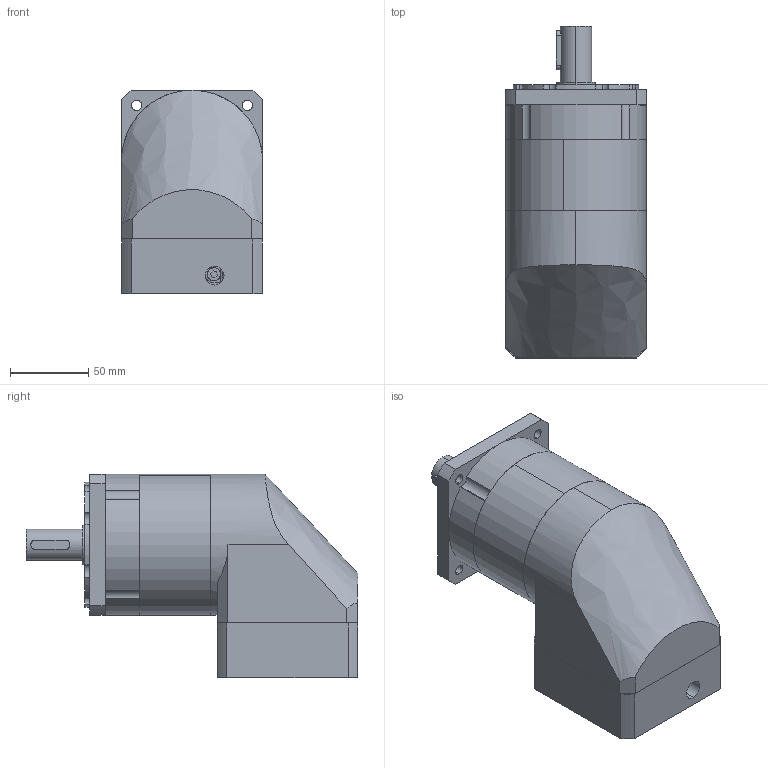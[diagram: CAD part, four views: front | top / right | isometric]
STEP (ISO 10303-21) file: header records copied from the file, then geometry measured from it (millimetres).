
FILE_DESCRIPTION (( 'STEP AP203' ), '1' );
FILE_NAME ('PVFA090-L2-14-73-98.4.STEP', '2022-07-27T03:33:24', ( 'Windows User' ), ( 'P R C' ), 'SwSTEP 2.0', 'SolidWorks 2016', '' );
FILE_SCHEMA (( 'CONFIG_CONTROL_DESIGN' ));
Length unit declared in the file: millimetre
Products named in the file (9): PVFA090 奻屳唳_梓袧; PVFA090-蟀諉啣-73-M5-98.4; PVFA090-薊粣ん-14; M5 x 20; 粣創-3206A 30x62x23.8_2; 邧埴瑩 6x6x25; PVFA090-L2-14-73-98.4; PVFA090 眊极_揤翉; PVFA090 內齿圈-优化_二级内齿圈
Assembly tree (8 placements, depth 2):
  PVFA090-L2-14-73-98.4
    PVFA090 眊极_揤翉
    PVFA090 內齿圈-优化_二级内齿圈
    PVFA090 奻屳唳_梓袧
    PVFA090-蟀諉啣-73-M5-98.4
    PVFA090-薊粣ん-14
    M5 x 20
    粣創-3206A 30x62x23.8_2
    邧埴瑩 6x6x25
Bounding box: 90 x 212 x 130 mm (x, y, z)
Volume: 1245754.9 mm3; surface area: 196168.7 mm2
Topology: 13 solids, 13 shells, 1189 faces, 3450 edges, 2227 vertices
Faces by surface type: plane 625, bspline 303, cylinder 231, cone 30
Entity records: 50597 total; most frequent: CARTESIAN_POINT 20449, ORIENTED_EDGE 6668, DIRECTION 5174, EDGE_CURVE 3334, VERTEX_POINT 2227, LINE 1890, VECTOR 1890, AXIS2_PLACEMENT_3D 1642
